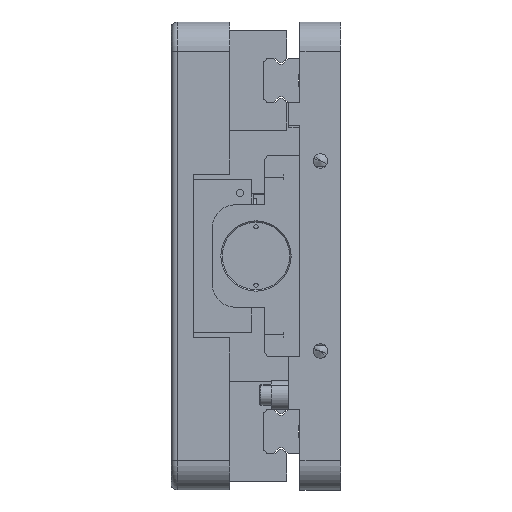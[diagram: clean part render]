
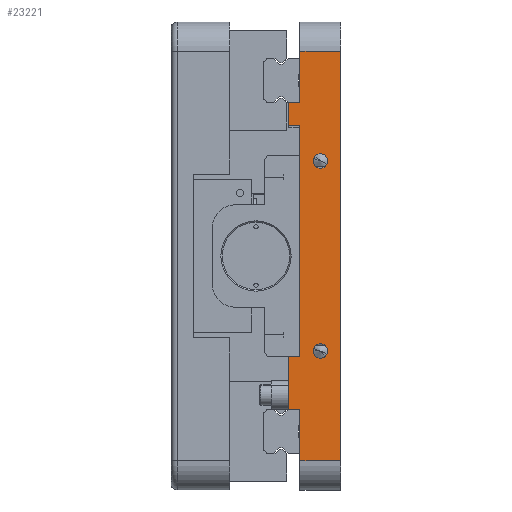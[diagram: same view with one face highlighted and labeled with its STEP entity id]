
A CAD part, left-side view. The second image highlights one B-rep face of the part: STEP entity #23221.
In plain terms, the highlighted planar face has unit normal (-1, 0, 0).
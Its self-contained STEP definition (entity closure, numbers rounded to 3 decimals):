
#306 = CARTESIAN_POINT ( 'NONE',  ( -161.5, 7., 32.5 ) ) ;
#365 = ORIENTED_EDGE ( 'NONE', *, *, #18598, .T. ) ;
#659 = DIRECTION ( 'NONE',  ( 0., 0., 1. ) ) ;
#1615 = VERTEX_POINT ( 'NONE', #21449 ) ;
#1862 = ORIENTED_EDGE ( 'NONE', *, *, #14212, .F. ) ;
#1909 = VERTEX_POINT ( 'NONE', #30211 ) ;
#2378 = LINE ( 'NONE', #24219, #23767 ) ;
#2508 = AXIS2_PLACEMENT_3D ( 'NONE', #19903, #44933, #5791 ) ;
#2628 = LINE ( 'NONE', #10111, #9217 ) ;
#2796 = VECTOR ( 'NONE', #11285, 1000. ) ;
#3513 = LINE ( 'NONE', #38977, #4622 ) ;
#4489 = EDGE_CURVE ( 'NONE', #42682, #1909, #38526, .T. ) ;
#4622 = VECTOR ( 'NONE', #25017, 1000. ) ;
#5096 = EDGE_CURVE ( 'NONE', #42286, #31522, #9872, .T. ) ;
#5332 = EDGE_LOOP ( 'NONE', ( #42857, #8393, #45324, #16307, #1862, #17960, #21145, #29103, #20370, #21958, #365, #40498 ) ) ;
#5791 = DIRECTION ( 'NONE',  ( 0., 0., -1. ) ) ;
#5861 = VERTEX_POINT ( 'NONE', #40146 ) ;
#5991 = VECTOR ( 'NONE', #23666, 1000. ) ;
#6151 = EDGE_CURVE ( 'NONE', #28667, #1615, #17467, .T. ) ;
#6191 = CARTESIAN_POINT ( 'NONE',  ( -161.5, 14., 80. ) ) ;
#6433 = CARTESIAN_POINT ( 'NONE',  ( -161.5, -324.169, 52.5 ) ) ;
#6930 = LINE ( 'NONE', #6191, #8048 ) ;
#7393 = CIRCLE ( 'NONE', #21861, 2.5 ) ;
#8048 = VECTOR ( 'NONE', #27551, 1000. ) ;
#8210 = VERTEX_POINT ( 'NONE', #18792 ) ;
#8393 = ORIENTED_EDGE ( 'NONE', *, *, #15507, .T. ) ;
#8639 = CARTESIAN_POINT ( 'NONE',  ( -161.5, 14., 44.5 ) ) ;
#9098 = EDGE_CURVE ( 'NONE', #44849, #22529, #3513, .T. ) ;
#9217 = VECTOR ( 'NONE', #45450, 1000. ) ;
#9282 = CARTESIAN_POINT ( 'NONE',  ( -161.5, 7., 35. ) ) ;
#9872 = CIRCLE ( 'NONE', #41339, 2.5 ) ;
#10036 = VERTEX_POINT ( 'NONE', #20437 ) ;
#10111 = CARTESIAN_POINT ( 'NONE',  ( -161.5, -324.169, -52.5 ) ) ;
#10517 = LINE ( 'NONE', #45288, #31965 ) ;
#10757 = CARTESIAN_POINT ( 'NONE',  ( -161.5, 7., -30. ) ) ;
#11042 = DIRECTION ( 'NONE',  ( -1., 0., 0. ) ) ;
#11155 = DIRECTION ( 'NONE',  ( 0., 0., -1. ) ) ;
#11285 = DIRECTION ( 'NONE',  ( 0., 1., 0. ) ) ;
#11991 = EDGE_CURVE ( 'NONE', #18545, #5861, #6930, .T. ) ;
#12158 = DIRECTION ( 'NONE',  ( 0., 0., 1. ) ) ;
#12530 = VECTOR ( 'NONE', #659, 1000. ) ;
#13059 = DIRECTION ( 'NONE',  ( 0., 1., 0. ) ) ;
#13714 = DIRECTION ( 'NONE',  ( 0., 0., 1. ) ) ;
#13866 = CARTESIAN_POINT ( 'NONE',  ( -161.5, 17.8, -52.5 ) ) ;
#14212 = EDGE_CURVE ( 'NONE', #1909, #41417, #2378, .T. ) ;
#14218 = CARTESIAN_POINT ( 'NONE',  ( -161.5, -110.209, 44.5 ) ) ;
#14467 = CIRCLE ( 'NONE', #21166, 2.5 ) ;
#14885 = LINE ( 'NONE', #16580, #27535 ) ;
#15507 = EDGE_CURVE ( 'NONE', #1615, #18545, #10517, .T. ) ;
#15741 = CARTESIAN_POINT ( 'NONE',  ( -161.5, 7., -32.5 ) ) ;
#16307 = ORIENTED_EDGE ( 'NONE', *, *, #34787, .T. ) ;
#16497 = CIRCLE ( 'NONE', #17956, 2.5 ) ;
#16580 = CARTESIAN_POINT ( 'NONE',  ( -161.5, -110.209, -34.5 ) ) ;
#16790 = CARTESIAN_POINT ( 'NONE',  ( -161.5, 7., 32.5 ) ) ;
#17079 = DIRECTION ( 'NONE',  ( -1., 0., 0. ) ) ;
#17198 = CARTESIAN_POINT ( 'NONE',  ( -161.5, 17.8, -70. ) ) ;
#17467 = LINE ( 'NONE', #21074, #12530 ) ;
#17862 = CARTESIAN_POINT ( 'NONE',  ( -161.5, 17.8, -34.5 ) ) ;
#17956 = AXIS2_PLACEMENT_3D ( 'NONE', #36117, #29392, #12158 ) ;
#17960 = ORIENTED_EDGE ( 'NONE', *, *, #4489, .F. ) ;
#18545 = VERTEX_POINT ( 'NONE', #25615 ) ;
#18559 = VERTEX_POINT ( 'NONE', #18684 ) ;
#18598 = EDGE_CURVE ( 'NONE', #8210, #41966, #20958, .T. ) ;
#18684 = CARTESIAN_POINT ( 'NONE',  ( -161.5, 7., -35. ) ) ;
#18792 = CARTESIAN_POINT ( 'NONE',  ( -161.5, 14., -52.5 ) ) ;
#18869 = ORIENTED_EDGE ( 'NONE', *, *, #39565, .F. ) ;
#19903 = CARTESIAN_POINT ( 'NONE',  ( -161.5, 17.8, -80. ) ) ;
#20051 = FACE_OUTER_BOUND ( 'NONE', #5332, .T. ) ;
#20370 = ORIENTED_EDGE ( 'NONE', *, *, #9098, .F. ) ;
#20437 = CARTESIAN_POINT ( 'NONE',  ( -161.5, 14., -34.5 ) ) ;
#20958 = LINE ( 'NONE', #25467, #32527 ) ;
#21074 = CARTESIAN_POINT ( 'NONE',  ( -161.5, 0., -80. ) ) ;
#21145 = ORIENTED_EDGE ( 'NONE', *, *, #38619, .T. ) ;
#21166 = AXIS2_PLACEMENT_3D ( 'NONE', #15741, #26052, #29714 ) ;
#21449 = CARTESIAN_POINT ( 'NONE',  ( -161.5, 0., 70. ) ) ;
#21578 = CARTESIAN_POINT ( 'NONE',  ( -161.5, 14., -70. ) ) ;
#21634 = CARTESIAN_POINT ( 'NONE',  ( -161.5, 17.8, 52.5 ) ) ;
#21861 = AXIS2_PLACEMENT_3D ( 'NONE', #16790, #17079, #13714 ) ;
#21958 = ORIENTED_EDGE ( 'NONE', *, *, #30486, .F. ) ;
#22529 = VERTEX_POINT ( 'NONE', #17862 ) ;
#23221 = ADVANCED_FACE ( 'NONE', ( #40377, #25584, #20051 ), #26855, .F. ) ;
#23265 = CARTESIAN_POINT ( 'NONE',  ( -161.5, 7., 30. ) ) ;
#23666 = DIRECTION ( 'NONE',  ( 0., -1., 0. ) ) ;
#23723 = LINE ( 'NONE', #6433, #42388 ) ;
#23767 = VECTOR ( 'NONE', #30683, 1000. ) ;
#24098 = DIRECTION ( 'NONE',  ( 0., 1., 0. ) ) ;
#24219 = CARTESIAN_POINT ( 'NONE',  ( -161.5, 17.8, -80. ) ) ;
#24228 = EDGE_CURVE ( 'NONE', #10036, #22529, #14885, .T. ) ;
#24722 = DIRECTION ( 'NONE',  ( 0., 0., 1. ) ) ;
#25017 = DIRECTION ( 'NONE',  ( 0., 0., 1. ) ) ;
#25086 = EDGE_LOOP ( 'NONE', ( #39873, #18869 ) ) ;
#25467 = CARTESIAN_POINT ( 'NONE',  ( -161.5, 14., -80. ) ) ;
#25584 = FACE_BOUND ( 'NONE', #25086, .T. ) ;
#25615 = CARTESIAN_POINT ( 'NONE',  ( -161.5, 14., 70. ) ) ;
#25668 = LINE ( 'NONE', #42510, #28966 ) ;
#26052 = DIRECTION ( 'NONE',  ( -1., 0., 0. ) ) ;
#26823 = VERTEX_POINT ( 'NONE', #10757 ) ;
#26855 = PLANE ( 'NONE',  #2508 ) ;
#27535 = VECTOR ( 'NONE', #13059, 1000. ) ;
#27551 = DIRECTION ( 'NONE',  ( 0., 0., -1. ) ) ;
#28157 = EDGE_CURVE ( 'NONE', #18559, #26823, #14467, .T. ) ;
#28667 = VERTEX_POINT ( 'NONE', #29518 ) ;
#28966 = VECTOR ( 'NONE', #38991, 1000. ) ;
#29103 = ORIENTED_EDGE ( 'NONE', *, *, #24228, .T. ) ;
#29392 = DIRECTION ( 'NONE',  ( -1., 0., 0. ) ) ;
#29518 = CARTESIAN_POINT ( 'NONE',  ( -161.5, 0., -70. ) ) ;
#29714 = DIRECTION ( 'NONE',  ( 0., 0., 1. ) ) ;
#30211 = CARTESIAN_POINT ( 'NONE',  ( -161.5, 17.8, 44.5 ) ) ;
#30486 = EDGE_CURVE ( 'NONE', #8210, #44849, #2628, .T. ) ;
#30683 = DIRECTION ( 'NONE',  ( 0., 0., 1. ) ) ;
#31522 = VERTEX_POINT ( 'NONE', #23265 ) ;
#31965 = VECTOR ( 'NONE', #41903, 1000. ) ;
#32527 = VECTOR ( 'NONE', #11155, 1000. ) ;
#34787 = EDGE_CURVE ( 'NONE', #5861, #41417, #23723, .T. ) ;
#34921 = EDGE_LOOP ( 'NONE', ( #44406, #36503 ) ) ;
#36117 = CARTESIAN_POINT ( 'NONE',  ( -161.5, 7., -32.5 ) ) ;
#36503 = ORIENTED_EDGE ( 'NONE', *, *, #28157, .F. ) ;
#36951 = EDGE_CURVE ( 'NONE', #26823, #18559, #16497, .T. ) ;
#37208 = EDGE_CURVE ( 'NONE', #41966, #28667, #37316, .T. ) ;
#37316 = LINE ( 'NONE', #17198, #5991 ) ;
#38526 = LINE ( 'NONE', #14218, #2796 ) ;
#38619 = EDGE_CURVE ( 'NONE', #42682, #10036, #25668, .T. ) ;
#38977 = CARTESIAN_POINT ( 'NONE',  ( -161.5, 17.8, -80. ) ) ;
#38991 = DIRECTION ( 'NONE',  ( 0., 0., -1. ) ) ;
#39565 = EDGE_CURVE ( 'NONE', #31522, #42286, #7393, .T. ) ;
#39873 = ORIENTED_EDGE ( 'NONE', *, *, #5096, .F. ) ;
#40146 = CARTESIAN_POINT ( 'NONE',  ( -161.5, 14., 52.5 ) ) ;
#40377 = FACE_BOUND ( 'NONE', #34921, .T. ) ;
#40498 = ORIENTED_EDGE ( 'NONE', *, *, #37208, .T. ) ;
#41339 = AXIS2_PLACEMENT_3D ( 'NONE', #306, #11042, #24722 ) ;
#41417 = VERTEX_POINT ( 'NONE', #21634 ) ;
#41903 = DIRECTION ( 'NONE',  ( 0., 1., 0. ) ) ;
#41966 = VERTEX_POINT ( 'NONE', #21578 ) ;
#42286 = VERTEX_POINT ( 'NONE', #9282 ) ;
#42388 = VECTOR ( 'NONE', #24098, 1000. ) ;
#42510 = CARTESIAN_POINT ( 'NONE',  ( -161.5, 14., 44.5 ) ) ;
#42682 = VERTEX_POINT ( 'NONE', #8639 ) ;
#42857 = ORIENTED_EDGE ( 'NONE', *, *, #6151, .T. ) ;
#44406 = ORIENTED_EDGE ( 'NONE', *, *, #36951, .F. ) ;
#44849 = VERTEX_POINT ( 'NONE', #13866 ) ;
#44933 = DIRECTION ( 'NONE',  ( 1., 0., 0. ) ) ;
#45288 = CARTESIAN_POINT ( 'NONE',  ( -161.5, 17.8, 70. ) ) ;
#45324 = ORIENTED_EDGE ( 'NONE', *, *, #11991, .T. ) ;
#45450 = DIRECTION ( 'NONE',  ( 0., 1., 0. ) ) ;
